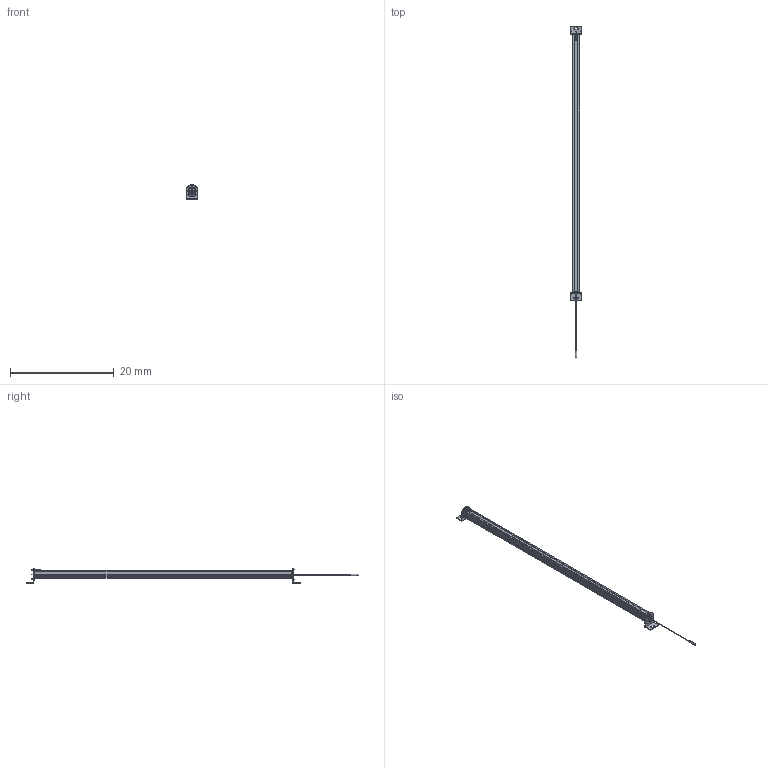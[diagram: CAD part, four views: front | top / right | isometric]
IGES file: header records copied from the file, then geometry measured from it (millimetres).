
Start section:  Autodesk DirectConnect version 7.0.27.0 ---- IGES version 5.3
Global section: file name: C:\ACADFILES\SS_PYLONS\CUSTOMER_FILES\SS-48-PYLON_3D_SMB.iges; native system: Autodesk DirectConnect 7.0.27.0; preprocessor: 7.0.27.0; author: ENGINEERMAIN; organization: Unknown; date: 20150810.125414; units: millimetre
Bounding box: 2.26 x 64.01 x 2.75 mm (x, y, z)
Surface area: 782.3 mm2 (no closed solid volume)
Topology: 0 solids, 0 shells, 754 faces, 3833 edges, 3829 vertices
Faces by surface type: bspline 754
